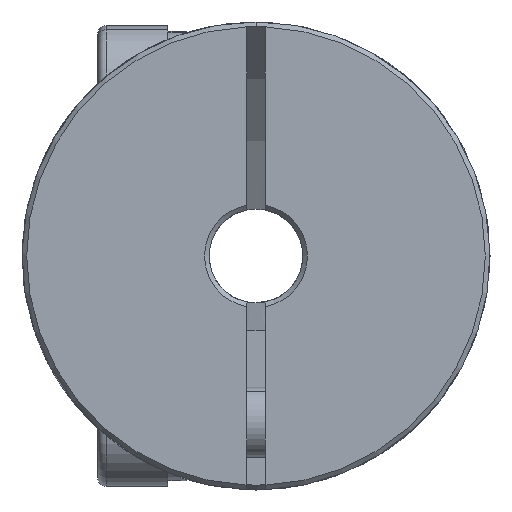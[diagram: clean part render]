
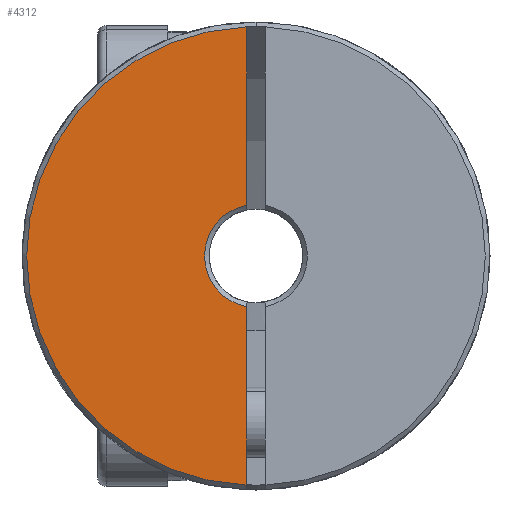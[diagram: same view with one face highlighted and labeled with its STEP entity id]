
A CAD part, front view. The second image highlights one B-rep face of the part: STEP entity #4312.
In plain terms, the highlighted planar face has unit normal (0, -1, 0).
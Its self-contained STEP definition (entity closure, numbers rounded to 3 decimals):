
#14 = DIRECTION ( 'NONE',  ( 0., 1., 0. ) ) ;
#103 = DIRECTION ( 'NONE',  ( 0., 1., 0. ) ) ;
#880 = EDGE_CURVE ( 'NONE', #3663, #937, #4396, .T. ) ;
#937 = VERTEX_POINT ( 'NONE', #1937 ) ;
#1183 = AXIS2_PLACEMENT_3D ( 'NONE', #1243, #3004, #2431 ) ;
#1205 = CARTESIAN_POINT ( 'NONE',  ( -0.4, -17.5, 0. ) ) ;
#1243 = CARTESIAN_POINT ( 'NONE',  ( 0., -17.5, 0. ) ) ;
#1293 = CARTESIAN_POINT ( 'NONE',  ( -0.4, -17.5, 2.163 ) ) ;
#1731 = CARTESIAN_POINT ( 'NONE',  ( -0.4, -17.5, -2.163 ) ) ;
#1767 = DIRECTION ( 'NONE',  ( 0., 0., 1. ) ) ;
#1934 = LINE ( 'NONE', #1205, #6374 ) ;
#1937 = CARTESIAN_POINT ( 'NONE',  ( -0.4, -17.5, -9.792 ) ) ;
#2033 = CIRCLE ( 'NONE', #7473, 2.2 ) ;
#2152 = EDGE_CURVE ( 'NONE', #5372, #3787, #1934, .T. ) ;
#2170 = CIRCLE ( 'NONE', #1183, 9.8 ) ;
#2431 = DIRECTION ( 'NONE',  ( 0., 0., 1. ) ) ;
#2910 = DIRECTION ( 'NONE',  ( 0., 0., -1. ) ) ;
#2915 = CARTESIAN_POINT ( 'NONE',  ( -0.4, -17.5, 9.792 ) ) ;
#3004 = DIRECTION ( 'NONE',  ( 0., -1., 0. ) ) ;
#3055 = AXIS2_PLACEMENT_3D ( 'NONE', #6483, #103, #4178 ) ;
#3095 = PLANE ( 'NONE',  #3055 ) ;
#3340 = ORIENTED_EDGE ( 'NONE', *, *, #5856, .T. ) ;
#3525 = CARTESIAN_POINT ( 'NONE',  ( 0., -17.5, 0. ) ) ;
#3630 = CARTESIAN_POINT ( 'NONE',  ( -0.4, -17.5, 0. ) ) ;
#3663 = VERTEX_POINT ( 'NONE', #1731 ) ;
#3787 = VERTEX_POINT ( 'NONE', #1293 ) ;
#3879 = ORIENTED_EDGE ( 'NONE', *, *, #6459, .T. ) ;
#4178 = DIRECTION ( 'NONE',  ( 0., 0., 1. ) ) ;
#4312 = ADVANCED_FACE ( 'NONE', ( #5361 ), #3095, .F. ) ;
#4396 = LINE ( 'NONE', #3630, #6107 ) ;
#4762 = DIRECTION ( 'NONE',  ( 0., 0., -1. ) ) ;
#5361 = FACE_OUTER_BOUND ( 'NONE', #6910, .T. ) ;
#5372 = VERTEX_POINT ( 'NONE', #2915 ) ;
#5856 = EDGE_CURVE ( 'NONE', #3663, #3787, #2033, .T. ) ;
#6068 = ORIENTED_EDGE ( 'NONE', *, *, #2152, .F. ) ;
#6107 = VECTOR ( 'NONE', #4762, 1000. ) ;
#6374 = VECTOR ( 'NONE', #2910, 1000. ) ;
#6459 = EDGE_CURVE ( 'NONE', #5372, #937, #2170, .T. ) ;
#6483 = CARTESIAN_POINT ( 'NONE',  ( 0., -17.5, 0. ) ) ;
#6690 = ORIENTED_EDGE ( 'NONE', *, *, #880, .F. ) ;
#6910 = EDGE_LOOP ( 'NONE', ( #6068, #3879, #6690, #3340 ) ) ;
#7473 = AXIS2_PLACEMENT_3D ( 'NONE', #3525, #14, #1767 ) ;
